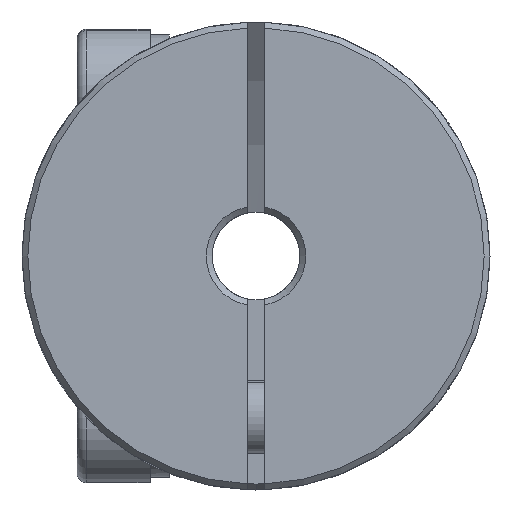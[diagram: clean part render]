
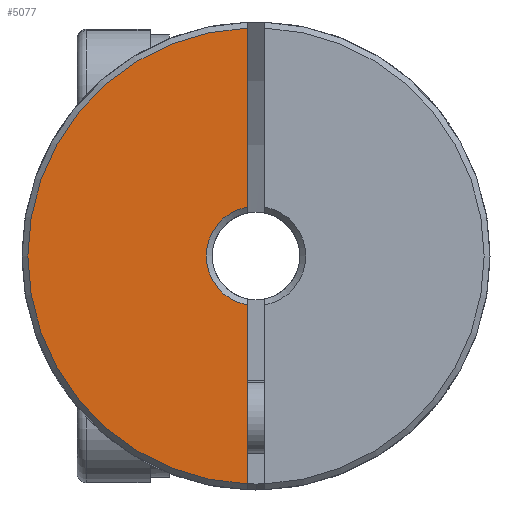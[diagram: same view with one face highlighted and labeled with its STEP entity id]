
A CAD part, front view. The second image highlights one B-rep face of the part: STEP entity #5077.
In plain terms, the highlighted planar face has unit normal (0, -1, 0).
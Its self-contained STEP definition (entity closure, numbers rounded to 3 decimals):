
#85 = DIRECTION ( 'NONE',  ( 0., 0., -1. ) ) ;
#118 = CIRCLE ( 'NONE', #1335, 1.7 ) ;
#609 = CARTESIAN_POINT ( 'NONE',  ( -0.3, -15.02, 7.794 ) ) ;
#639 = FACE_OUTER_BOUND ( 'NONE', #6233, .T. ) ;
#1044 = EDGE_CURVE ( 'NONE', #1482, #5953, #2967, .T. ) ;
#1335 = AXIS2_PLACEMENT_3D ( 'NONE', #6418, #3423, #4683 ) ;
#1482 = VERTEX_POINT ( 'NONE', #609 ) ;
#1968 = CARTESIAN_POINT ( 'NONE',  ( 0., -15.02, 0. ) ) ;
#2161 = CARTESIAN_POINT ( 'NONE',  ( -0.3, -15.02, -1.673 ) ) ;
#2380 = DIRECTION ( 'NONE',  ( 0., 0., 1. ) ) ;
#2430 = ORIENTED_EDGE ( 'NONE', *, *, #4391, .T. ) ;
#2460 = VECTOR ( 'NONE', #85, 1000. ) ;
#2600 = PLANE ( 'NONE',  #7156 ) ;
#2967 = CIRCLE ( 'NONE', #3742, 7.8 ) ;
#2970 = LINE ( 'NONE', #3132, #6764 ) ;
#3011 = CARTESIAN_POINT ( 'NONE',  ( -0.3, -15.02, 0. ) ) ;
#3132 = CARTESIAN_POINT ( 'NONE',  ( -0.3, -15.02, 0. ) ) ;
#3178 = ORIENTED_EDGE ( 'NONE', *, *, #1044, .T. ) ;
#3423 = DIRECTION ( 'NONE',  ( 0., 1., 0. ) ) ;
#3588 = DIRECTION ( 'NONE',  ( 0., -1., 0. ) ) ;
#3742 = AXIS2_PLACEMENT_3D ( 'NONE', #5999, #3588, #2380 ) ;
#3821 = DIRECTION ( 'NONE',  ( 0., 0., 1. ) ) ;
#4163 = EDGE_CURVE ( 'NONE', #1482, #7230, #2970, .T. ) ;
#4391 = EDGE_CURVE ( 'NONE', #5341, #7230, #118, .T. ) ;
#4683 = DIRECTION ( 'NONE',  ( 0., 0., 1. ) ) ;
#4821 = LINE ( 'NONE', #3011, #2460 ) ;
#5077 = ADVANCED_FACE ( 'NONE', ( #639 ), #2600, .F. ) ;
#5341 = VERTEX_POINT ( 'NONE', #2161 ) ;
#5953 = VERTEX_POINT ( 'NONE', #7063 ) ;
#5999 = CARTESIAN_POINT ( 'NONE',  ( 0., -15.02, 0. ) ) ;
#6084 = CARTESIAN_POINT ( 'NONE',  ( -0.3, -15.02, 1.673 ) ) ;
#6135 = EDGE_CURVE ( 'NONE', #5341, #5953, #4821, .T. ) ;
#6150 = DIRECTION ( 'NONE',  ( 0., 1., 0. ) ) ;
#6223 = ORIENTED_EDGE ( 'NONE', *, *, #4163, .F. ) ;
#6233 = EDGE_LOOP ( 'NONE', ( #6223, #3178, #6754, #2430 ) ) ;
#6418 = CARTESIAN_POINT ( 'NONE',  ( 0., -15.02, 0. ) ) ;
#6754 = ORIENTED_EDGE ( 'NONE', *, *, #6135, .F. ) ;
#6764 = VECTOR ( 'NONE', #7272, 1000. ) ;
#7063 = CARTESIAN_POINT ( 'NONE',  ( -0.3, -15.02, -7.794 ) ) ;
#7156 = AXIS2_PLACEMENT_3D ( 'NONE', #1968, #6150, #3821 ) ;
#7230 = VERTEX_POINT ( 'NONE', #6084 ) ;
#7272 = DIRECTION ( 'NONE',  ( 0., 0., -1. ) ) ;
